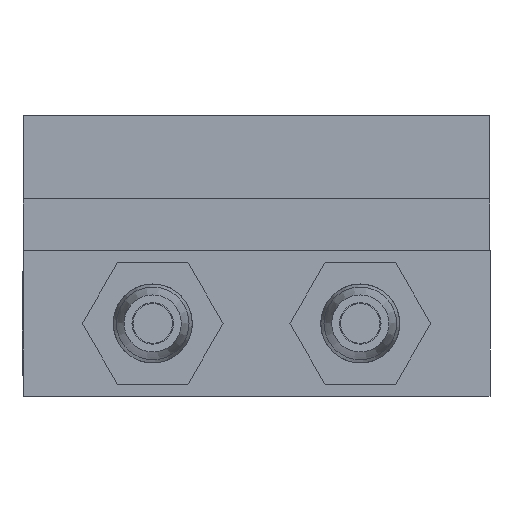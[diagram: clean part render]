
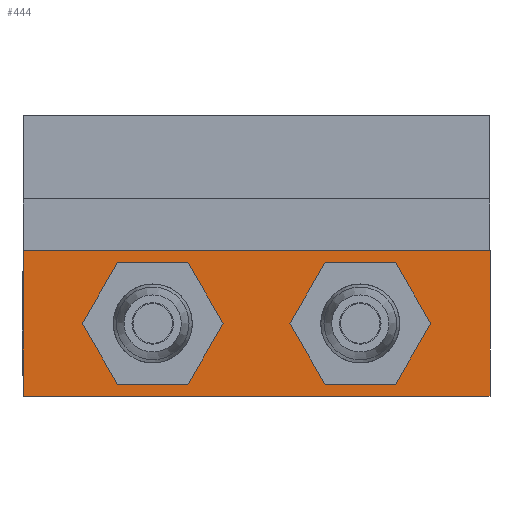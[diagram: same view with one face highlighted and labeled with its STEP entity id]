
A CAD part, front view. The second image highlights one B-rep face of the part: STEP entity #444.
In plain terms, the highlighted planar face has unit normal (0, -1, 0).
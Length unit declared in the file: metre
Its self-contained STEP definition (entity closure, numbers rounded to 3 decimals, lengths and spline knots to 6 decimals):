
#444=ADVANCED_FACE('1:22',(#891,#892,#893),#894,.T.);
#891=FACE_OUTER_BOUND('',#1477,.T.);
#892=FACE_BOUND('',#1478,.T.);
#893=FACE_BOUND('',#1479,.T.);
#894=PLANE('',#1480);
#1477=EDGE_LOOP('',(#2160,#2161,#2162,#2163));
#1478=EDGE_LOOP('',(#2164));
#1479=EDGE_LOOP('',(#2165));
#1480=AXIS2_PLACEMENT_3D('',#2166,#2167,#2168);
#2160=ORIENTED_EDGE('',*,*,#3281,.T.);
#2161=ORIENTED_EDGE('',*,*,#3267,.F.);
#2162=ORIENTED_EDGE('',*,*,#3257,.F.);
#2163=ORIENTED_EDGE('',*,*,#3270,.T.);
#2164=ORIENTED_EDGE('',*,*,#3292,.F.);
#2165=ORIENTED_EDGE('',*,*,#3290,.F.);
#2166=CARTESIAN_POINT('',(0.,-0.04,-0.007));
#2167=DIRECTION('',(0.0,-1.0,0.0));
#2168=DIRECTION('',(1.0,0.0,0.));
#3257=EDGE_CURVE('0:901',#3701,#3703,#3704,.T.);
#3267=EDGE_CURVE('0:898',#3703,#3717,#3721,.T.);
#3270=EDGE_CURVE('0:904',#3701,#3724,#3726,.T.);
#3281=EDGE_CURVE('0:895',#3724,#3717,#3740,.T.);
#3290=EDGE_CURVE('1:917',#3752,#3752,#3753,.T.);
#3292=EDGE_CURVE('1:521',#3755,#3755,#3756,.T.);
#3701=VERTEX_POINT('',#4349);
#3703=VERTEX_POINT('',#4352);
#3704=LINE('',#4353,#4354);
#3717=VERTEX_POINT('',#4369);
#3721=LINE('',#4375,#4376);
#3724=VERTEX_POINT('',#4379);
#3726=LINE('',#4382,#4383);
#3740=LINE('',#4399,#4400);
#3752=VERTEX_POINT('',#4412);
#3753=CIRCLE('',#4413,0.004);
#3755=VERTEX_POINT('',#4415);
#3756=CIRCLE('',#4416,0.004);
#4349=CARTESIAN_POINT('',(0.0225,-0.04,-0.007));
#4352=CARTESIAN_POINT('',(-0.0225,-0.04,-0.007));
#4353=CARTESIAN_POINT('',(0.0225,-0.04,-0.007));
#4354=VECTOR('',#5324,1.0);
#4369=CARTESIAN_POINT('',(-0.0225,-0.04,0.007));
#4375=CARTESIAN_POINT('',(-0.0225,-0.04,-0.007));
#4376=VECTOR('',#5341,1.0);
#4379=CARTESIAN_POINT('',(0.0225,-0.04,0.007));
#4382=CARTESIAN_POINT('',(0.0225,-0.04,-0.007));
#4383=VECTOR('',#5343,1.0);
#4399=CARTESIAN_POINT('',(0.0225,-0.04,0.007));
#4400=VECTOR('',#5355,1.0);
#4412=CARTESIAN_POINT('',(0.006,-0.04,0.));
#4413=AXIS2_PLACEMENT_3D('',#5365,#5366,#5367);
#4415=CARTESIAN_POINT('',(-0.014,-0.04,0.));
#4416=AXIS2_PLACEMENT_3D('',#5368,#5369,#5370);
#5324=DIRECTION('',(-1.0,0.0,0.));
#5341=DIRECTION('',(0.,0.0,1.0));
#5343=DIRECTION('',(0.,0.0,1.0));
#5355=DIRECTION('',(-1.0,0.0,0.));
#5365=CARTESIAN_POINT('',(0.01,-0.04,0.));
#5366=DIRECTION('',(0.0,-1.0,-0.0));
#5367=DIRECTION('',(-1.0,0.0,0.));
#5368=CARTESIAN_POINT('',(-0.01,-0.04,0.));
#5369=DIRECTION('',(0.0,-1.0,-0.0));
#5370=DIRECTION('',(-1.0,0.0,0.));
